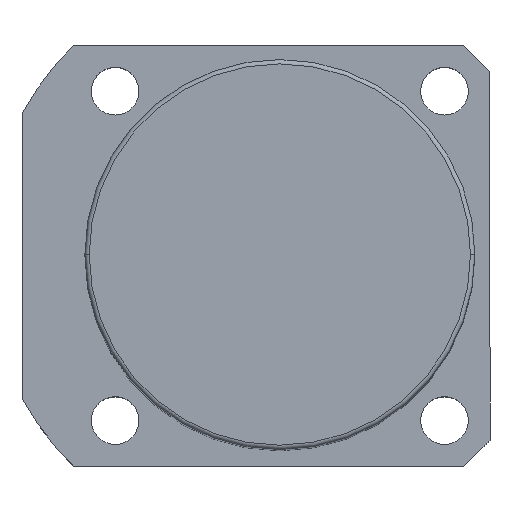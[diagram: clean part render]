
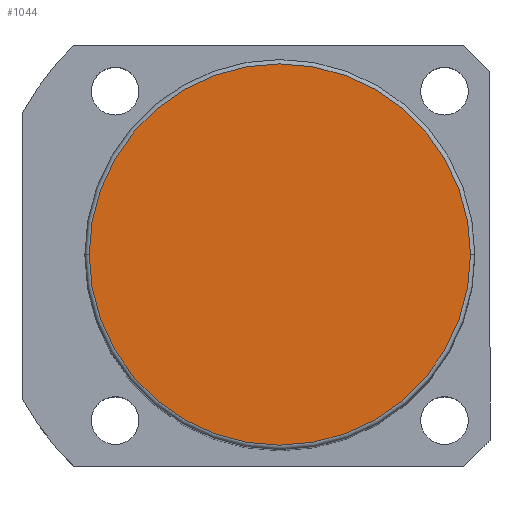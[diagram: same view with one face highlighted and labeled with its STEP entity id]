
A CAD part, top view. The second image highlights one B-rep face of the part: STEP entity #1044.
In plain terms, the highlighted planar face has unit normal (0, 0, 1).
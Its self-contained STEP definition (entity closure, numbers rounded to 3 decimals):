
#4 = EDGE_LOOP ( 'NONE', ( #280, #1922 ) ) ;
#17 = AXIS2_PLACEMENT_3D ( 'NONE', #1432, #1092, #1617 ) ;
#57 = AXIS2_PLACEMENT_3D ( 'NONE', #2201, #1160, #1170 ) ;
#216 = DIRECTION ( 'NONE',  ( 1., 0., 0. ) ) ;
#280 = ORIENTED_EDGE ( 'NONE', *, *, #2180, .T. ) ;
#539 = DIRECTION ( 'NONE',  ( 0., 0., 1. ) ) ;
#618 = VERTEX_POINT ( 'NONE', #1622 ) ;
#906 = PLANE ( 'NONE',  #17 ) ;
#936 = CIRCLE ( 'NONE', #57, 44. ) ;
#1044 = ADVANCED_FACE ( 'NONE', ( #2072 ), #906, .T. ) ;
#1092 = DIRECTION ( 'NONE',  ( 0., 0., 1. ) ) ;
#1160 = DIRECTION ( 'NONE',  ( 0., 0., 1. ) ) ;
#1170 = DIRECTION ( 'NONE',  ( 1., 0., 0. ) ) ;
#1273 = CARTESIAN_POINT ( 'NONE',  ( 44., 0., 191.5 ) ) ;
#1363 = CIRCLE ( 'NONE', #1933, 44. ) ;
#1432 = CARTESIAN_POINT ( 'NONE',  ( 0., 0., 191.5 ) ) ;
#1607 = CARTESIAN_POINT ( 'NONE',  ( 0., 0., 191.5 ) ) ;
#1617 = DIRECTION ( 'NONE',  ( 1., 0., 0. ) ) ;
#1622 = CARTESIAN_POINT ( 'NONE',  ( -44., 0., 191.5 ) ) ;
#1871 = VERTEX_POINT ( 'NONE', #1273 ) ;
#1922 = ORIENTED_EDGE ( 'NONE', *, *, #2027, .T. ) ;
#1933 = AXIS2_PLACEMENT_3D ( 'NONE', #1607, #539, #216 ) ;
#2027 = EDGE_CURVE ( 'NONE', #618, #1871, #936, .T. ) ;
#2072 = FACE_OUTER_BOUND ( 'NONE', #4, .T. ) ;
#2180 = EDGE_CURVE ( 'NONE', #1871, #618, #1363, .T. ) ;
#2201 = CARTESIAN_POINT ( 'NONE',  ( 0., 0., 191.5 ) ) ;
